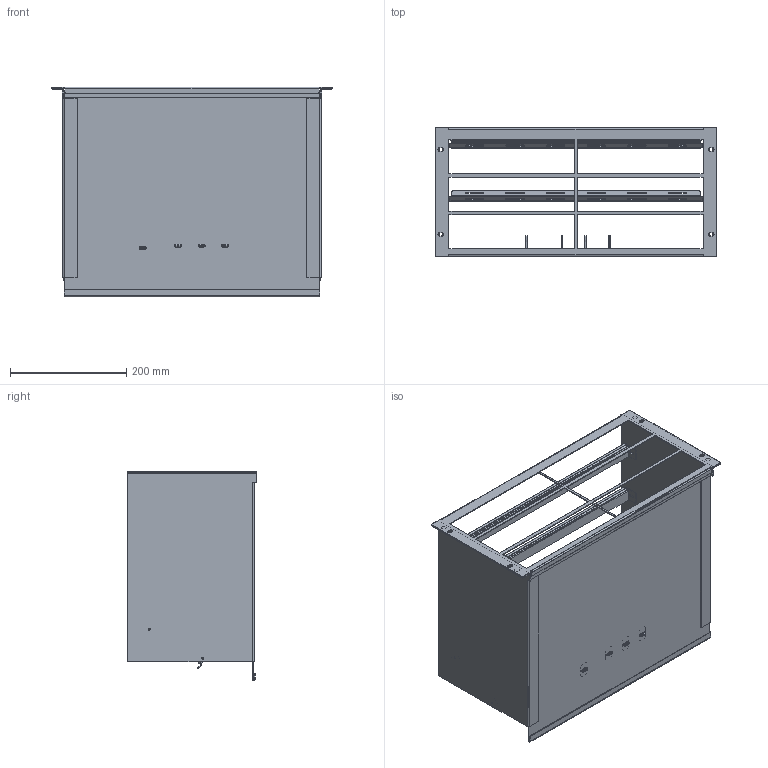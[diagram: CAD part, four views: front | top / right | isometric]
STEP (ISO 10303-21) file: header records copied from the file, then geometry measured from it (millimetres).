
FILE_DESCRIPTION((''),'2;1');
FILE_NAME('RSHA-SONOS-AMP6_ASM','2019-01-28T',('tpesso1a'),('Middle Atlantic Products'),'PRO/ENGINEER BY PARAMETRIC TECHNOLOGY CORPORATION, 2014310','PRO/ENGINEER BY PARAMETRIC TECHNOLOGY CORPORATION, 2014310','');
FILE_SCHEMA(('CONFIG_CONTROL_DESIGN'));
Length unit declared in the file: inch
Products named in the file (10): PRSHPB14; PRSHPLE5U2; PRSHPRE5U2; PRSHLH1; PRSHAF5U; 800-00183; PRSH4XCBK; 500-00435_17; ARSH4XCBK_ASM; RSHA-SONOS-AMP6_ASM
Assembly tree (14 placements, depth 3):
  RSHA-SONOS-AMP6_ASM
    PRSHPB14
    PRSHPLE5U2
    PRSHPRE5U2
    PRSHLH1  x2
    PRSHAF5U
    800-00183  x4
    ARSH4XCBK_ASM  x2
      PRSH4XCBK
      500-00435_17
Bounding box: 482.6 x 222 x 361.15 mm (x, y, z)
Volume: 775888.4 mm3; surface area: 922134.9 mm2
Topology: 18 solids, 18 shells, 1748 faces, 4248 edges, 2544 vertices
Faces by surface type: cylinder 745, plane 519, torus 360, bspline 100, sphere 16, cone 8
Entity records: 22194 total; most frequent: CARTESIAN_POINT 5227, DIRECTION 3650, ORIENTED_EDGE 3404, EDGE_CURVE 1702, AXIS2_PLACEMENT_3D 1348, VERTEX_POINT 1034, VECTOR 954, LINE 954
